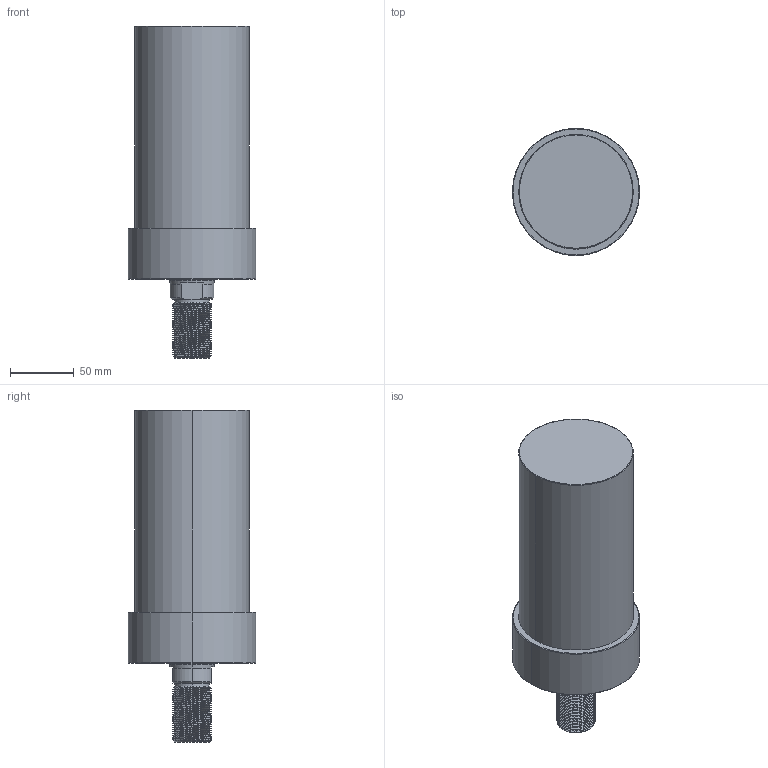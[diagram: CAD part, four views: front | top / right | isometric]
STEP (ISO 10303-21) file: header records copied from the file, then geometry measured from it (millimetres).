
FILE_DESCRIPTION (( 'STEP AP203' ), '1' );
FILE_NAME ('CLLU-090GT-115.STEP', '2020-01-15T01:31:36', ( '' ), ( '' ), 'SwSTEP 2.0', 'SolidWorks 2015', '' );
FILE_SCHEMA (( 'CONFIG_CONTROL_DESIGN' ));
Length unit declared in the file: millimetre
Products named in the file (1): CLLU-090GT-115
Bounding box: 100 x 100 x 261 mm (x, y, z)
Volume: 1363464.9 mm3; surface area: 85210.7 mm2
Topology: 1 solids, 1 shells, 125 faces, 326 edges, 204 vertices
Faces by surface type: cylinder 79, cone 26, plane 12, torus 6, bspline 2
Entity records: 7191 total; most frequent: CARTESIAN_POINT 4402, ORIENTED_EDGE 636, DIRECTION 515, EDGE_CURVE 318, VERTEX_POINT 204, AXIS2_PLACEMENT_3D 202, EDGE_LOOP 134, FACE_OUTER_BOUND 125
